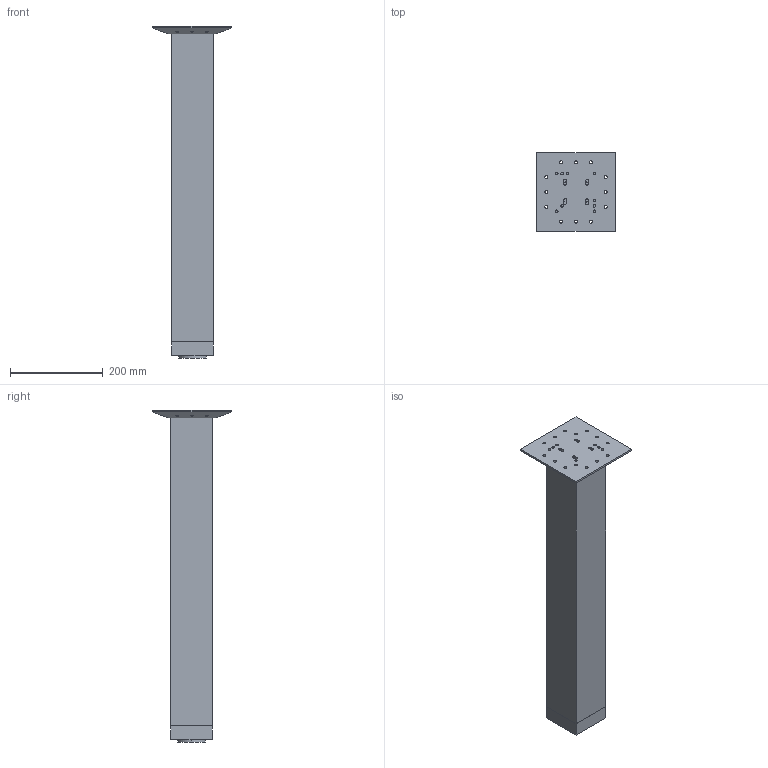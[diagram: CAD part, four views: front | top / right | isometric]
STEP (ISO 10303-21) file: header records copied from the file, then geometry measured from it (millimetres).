
FILE_DESCRIPTION( ( '' ), '1' );
FILE_NAME( 'C:/Users/dhek/Desktop/New folder/C_6/Legadrive/9242993.stp', '2018-02-22T05:05:53', ( '' ), ( '' ), ' ', ' ', ' ' );
FILE_SCHEMA( ( 'CONFIG_CONTROL_DESIGN' ) );
Length unit declared in the file: millimetre
Products named in the file (3): 1; 2; 3
Bounding box: 169.84 x 169.84 x 715 mm (x, y, z)
Volume: 5905256.1 mm3; surface area: 364729.7 mm2
Topology: 3 solids, 3 shells, 103 faces, 284 edges, 190 vertices
Faces by surface type: cylinder 74, plane 29
Entity records: 3616 total; most frequent: DIRECTION 650, CARTESIAN_POINT 580, ORIENTED_EDGE 568, EDGE_CURVE 284, AXIS2_PLACEMENT_3D 260, VERTEX_POINT 190, EDGE_LOOP 164, LINE 130
